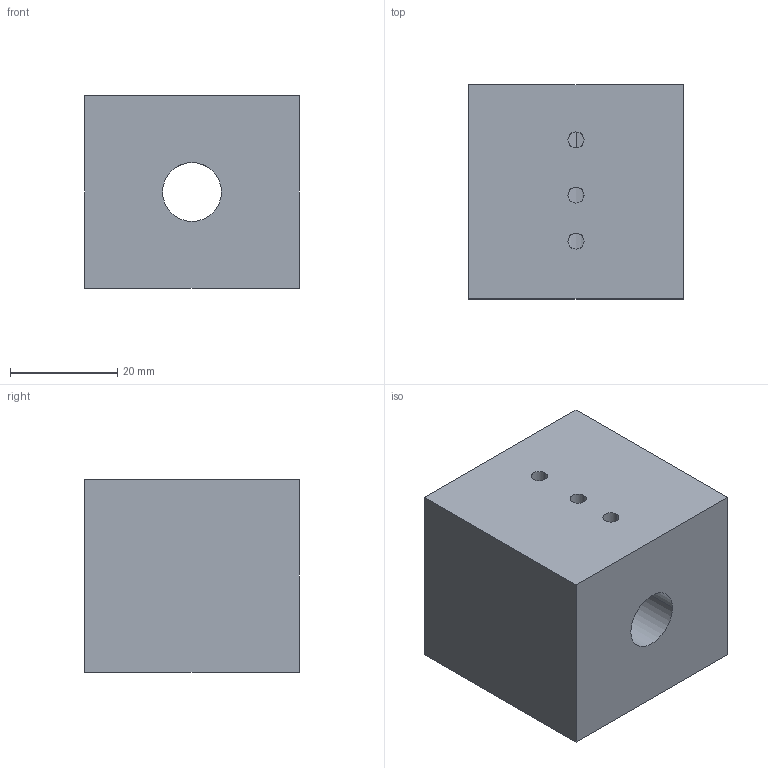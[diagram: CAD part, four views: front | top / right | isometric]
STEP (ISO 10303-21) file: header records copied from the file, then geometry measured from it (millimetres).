
FILE_DESCRIPTION (( 'STEP AP214' ), '1' );
FILE_NAME ('1-1325.4_4_3_MDPPM16.STEP', '2017-04-28T08:56:20', ( '' ), ( '' ), 'SwSTEP 2.0', 'SolidWorks 2016', '' );
FILE_SCHEMA (( 'AUTOMOTIVE_DESIGN' ));
Length unit declared in the file: millimetre
Products named in the file (1): 1-1325.4_4_3_MDPPM16
Bounding box: 40 x 40 x 36 mm (x, y, z)
Volume: 52038.7 mm3; surface area: 10555.1 mm2
Topology: 1 solids, 1 shells, 35 faces, 85 edges, 52 vertices
Faces by surface type: cylinder 14, cone 8, plane 7, torus 6
Entity records: 1305 total; most frequent: CARTESIAN_POINT 327, DIRECTION 191, ORIENTED_EDGE 170, EDGE_CURVE 85, AXIS2_PLACEMENT_3D 78, VERTEX_POINT 52, EDGE_LOOP 43, CIRCLE 42
